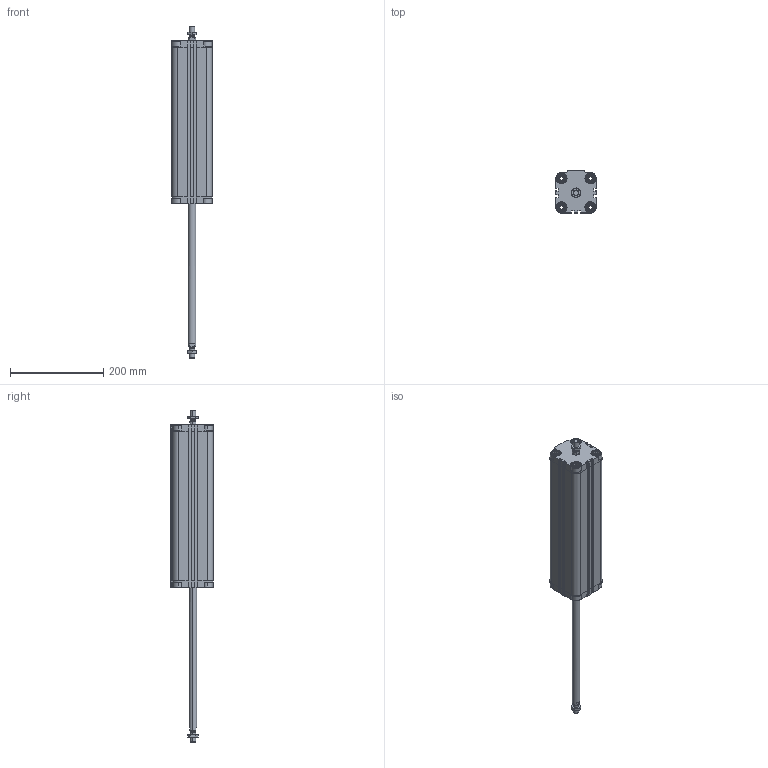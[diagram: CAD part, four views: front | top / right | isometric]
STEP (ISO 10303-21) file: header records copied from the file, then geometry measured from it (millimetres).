
FILE_DESCRIPTION (( 'STEP AP203' ), '1' );
FILE_NAME ('CDVU63-300M-P.STEP', '2020-07-21T15:23:57', ( '' ), ( '' ), 'SwSTEP 2.0', 'SolidWorks 2019', '' );
FILE_SCHEMA (( 'CONFIG_CONTROL_DESIGN' ));
Length unit declared in the file: millimetre
Products named in the file (1): CDVU63-300M-P
Bounding box: 87 x 91 x 713 mm (x, y, z)
Volume: 1528747.5 mm3; surface area: 343715.3 mm2
Topology: 4 solids, 4 shells, 658 faces, 1744 edges, 1138 vertices
Faces by surface type: plane 386, cylinder 192, cone 80
Entity records: 21255 total; most frequent: CARTESIAN_POINT 4809, ORIENTED_EDGE 3480, DIRECTION 3322, EDGE_CURVE 1740, AXIS2_PLACEMENT_3D 1139, VERTEX_POINT 1138, VECTOR 1044, LINE 1044
